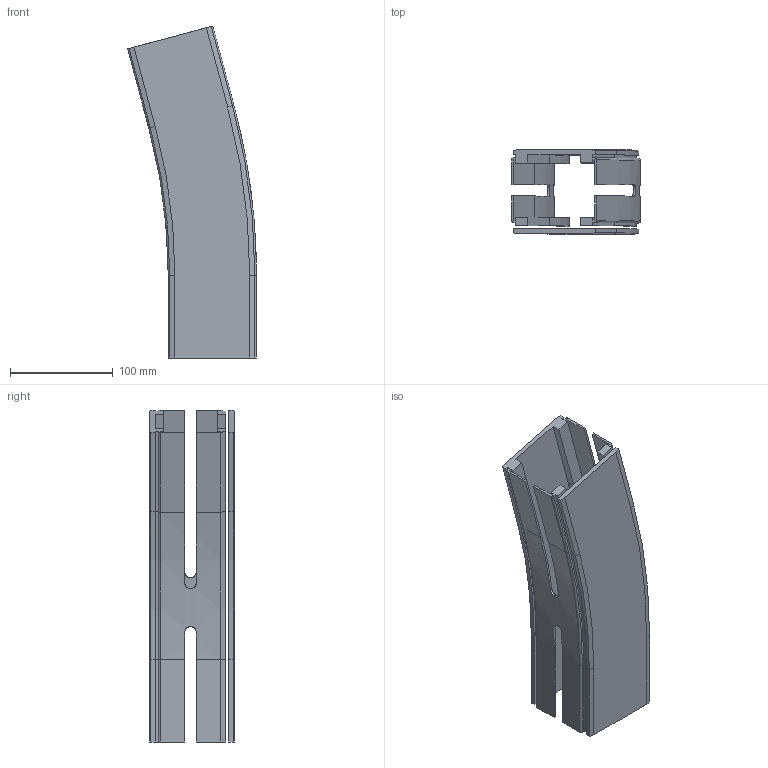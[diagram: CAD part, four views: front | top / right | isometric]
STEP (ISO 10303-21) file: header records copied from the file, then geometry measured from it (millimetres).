
FILE_DESCRIPTION(/* description */ ('GLIDKURVA SERIE 530'),/* implementation_level */ '2;1');
FILE_NAME(/* name */ '530-5375+830-2000-01.stp',/* time_stamp */ '2022-09-20T15:25:06+02:00',/* author */ ('Mathias.Dore'),/* organization */ ('CARRYLINE'),/* preprocessor_version */ 'ST-DEVELOPER v19.2',/* originating_system */ 'Autodesk Inventor 2023',/* authorisation */ '');
FILE_SCHEMA (('AUTOMOTIVE_DESIGN { 1 0 10303 214 3 1 1 }'));
Length unit declared in the file: millimetre
Products named in the file (1): 530-5375+830-2000-01
Bounding box: 125.68 x 82 x 323.69 mm (x, y, z)
Volume: 458635.4 mm3; surface area: 221037.3 mm2
Topology: 2 solids, 2 shells, 167 faces, 458 edges, 300 vertices
Faces by surface type: plane 113, cylinder 28, bspline 18, torus 4, cone 4
Entity records: 5625 total; most frequent: CARTESIAN_POINT 1332, ORIENTED_EDGE 916, DIRECTION 802, EDGE_CURVE 458, LINE 342, VECTOR 342, VERTEX_POINT 300, AXIS2_PLACEMENT_3D 230
